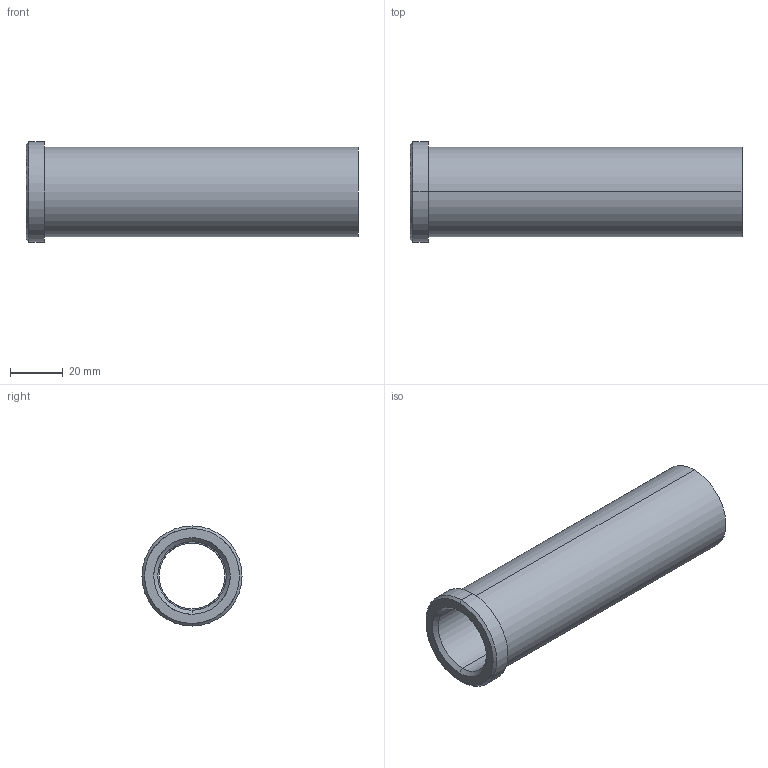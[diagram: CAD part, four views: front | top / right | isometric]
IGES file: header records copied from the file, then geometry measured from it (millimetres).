
Start section: START RECORD GO HERE.
Global section: file name: 353-25X126.igs; native system: DASSAULT SYSTEMES CATIA V5 R20 - www.3ds.com; preprocessor: CATIA Version 5 Release 20 ; author: Utente; organization: NB04-ASUS; date: 20210512.203119; units: millimetre
Bounding box: 126 x 38 x 38 mm (x, y, z)
Surface area: 24762.1 mm2 (no closed solid volume)
Topology: 0 solids, 0 shells, 18 faces, 116 edges, 116 vertices
Faces by surface type: revolution 14, plane 4
